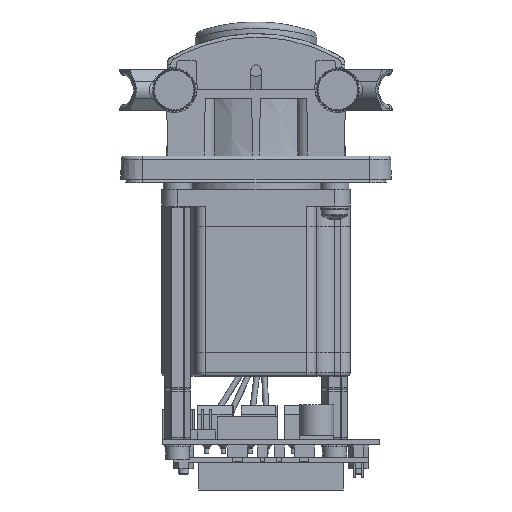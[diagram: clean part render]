
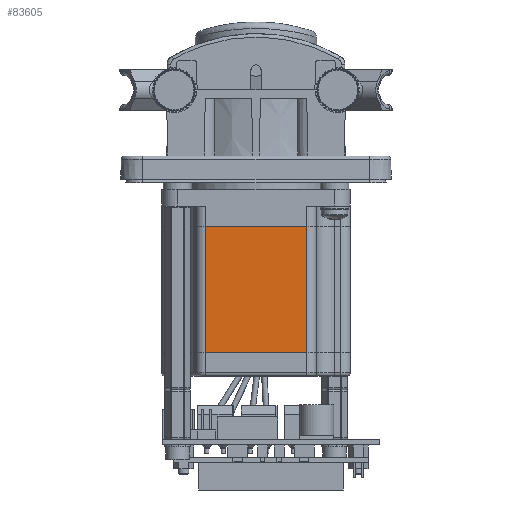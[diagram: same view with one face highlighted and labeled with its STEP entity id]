
A CAD part, front view. The second image highlights one B-rep face of the part: STEP entity #83605.
In plain terms, the highlighted planar face has unit normal (0, -1, 0).
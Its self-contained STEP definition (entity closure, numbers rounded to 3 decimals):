
#2840 = ORIENTED_EDGE ( 'NONE', *, *, #192657, .T. ) ;
#8995 = VERTEX_POINT ( 'NONE', #10299 ) ;
#10299 = CARTESIAN_POINT ( 'NONE',  ( -15.25, -28.2, -56. ) ) ;
#17981 = CARTESIAN_POINT ( 'NONE',  ( -28.2, -28.2, -63. ) ) ;
#18163 = CARTESIAN_POINT ( 'NONE',  ( -15.25, -28.2, 73.559 ) ) ;
#19972 = EDGE_CURVE ( 'NONE', #193006, #182886, #147325, .T. ) ;
#20110 = DIRECTION ( 'NONE',  ( 1., 0., 0. ) ) ;
#21253 = DIRECTION ( 'NONE',  ( 1., 0., 0. ) ) ;
#25336 = EDGE_LOOP ( 'NONE', ( #2840, #57459, #193117, #139139 ) ) ;
#33694 = VECTOR ( 'NONE', #20110, 1000. ) ;
#44323 = DIRECTION ( 'NONE',  ( 0., 0., -1. ) ) ;
#47876 = DIRECTION ( 'NONE',  ( 0., 0., -1. ) ) ;
#57459 = ORIENTED_EDGE ( 'NONE', *, *, #121599, .T. ) ;
#61444 = VECTOR ( 'NONE', #47876, 1000. ) ;
#62943 = FACE_OUTER_BOUND ( 'NONE', #25336, .T. ) ;
#83605 = ADVANCED_FACE ( 'NONE', ( #62943 ), #157529, .T. ) ;
#85424 = VECTOR ( 'NONE', #21253, 1000. ) ;
#106565 = CARTESIAN_POINT ( 'NONE',  ( -15.25, -28.2, -18. ) ) ;
#115820 = CARTESIAN_POINT ( 'NONE',  ( -28.2, -28.2, -18. ) ) ;
#121599 = EDGE_CURVE ( 'NONE', #8995, #151440, #130220, .T. ) ;
#130220 = LINE ( 'NONE', #189499, #85424 ) ;
#130807 = EDGE_CURVE ( 'NONE', #182886, #151440, #155168, .T. ) ;
#137462 = CARTESIAN_POINT ( 'NONE',  ( 15.25, -28.2, -56. ) ) ;
#139139 = ORIENTED_EDGE ( 'NONE', *, *, #19972, .F. ) ;
#143248 = DIRECTION ( 'NONE',  ( 1., 0., 0. ) ) ;
#147325 = LINE ( 'NONE', #115820, #33694 ) ;
#151440 = VERTEX_POINT ( 'NONE', #137462 ) ;
#155168 = LINE ( 'NONE', #166406, #200449 ) ;
#157529 = PLANE ( 'NONE',  #178019 ) ;
#157699 = LINE ( 'NONE', #18163, #61444 ) ;
#166406 = CARTESIAN_POINT ( 'NONE',  ( 15.25, -28.2, 73.559 ) ) ;
#171844 = DIRECTION ( 'NONE',  ( 0., -1., 0. ) ) ;
#178019 = AXIS2_PLACEMENT_3D ( 'NONE', #17981, #171844, #143248 ) ;
#182886 = VERTEX_POINT ( 'NONE', #183323 ) ;
#183323 = CARTESIAN_POINT ( 'NONE',  ( 15.25, -28.2, -18. ) ) ;
#189499 = CARTESIAN_POINT ( 'NONE',  ( -28.2, -28.2, -56. ) ) ;
#192657 = EDGE_CURVE ( 'NONE', #193006, #8995, #157699, .T. ) ;
#193006 = VERTEX_POINT ( 'NONE', #106565 ) ;
#193117 = ORIENTED_EDGE ( 'NONE', *, *, #130807, .F. ) ;
#200449 = VECTOR ( 'NONE', #44323, 1000. ) ;
